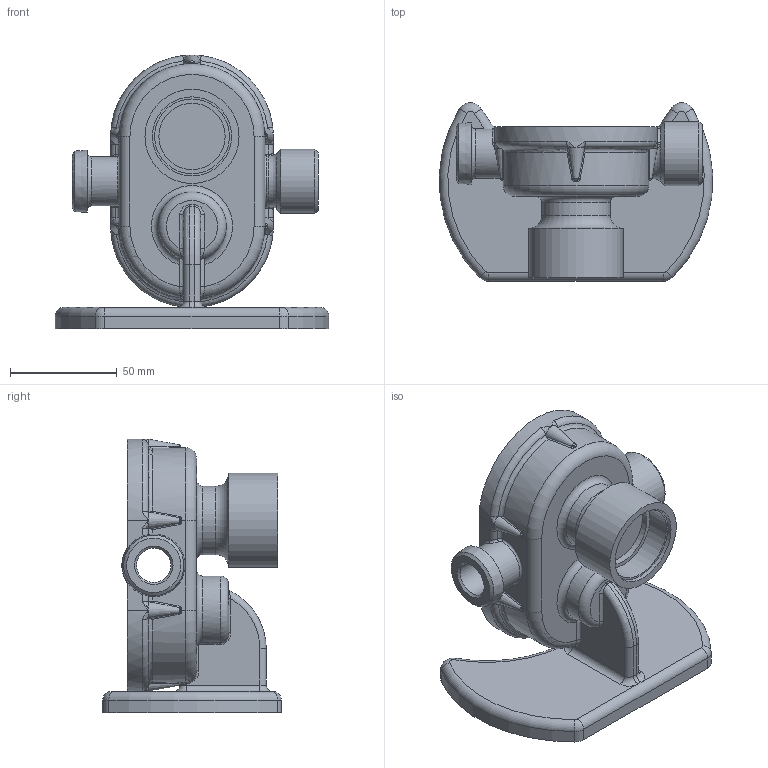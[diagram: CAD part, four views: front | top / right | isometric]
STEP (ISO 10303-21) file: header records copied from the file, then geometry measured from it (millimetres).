
FILE_DESCRIPTION(('STEP AP214'), '1');
FILE_NAME('扻豵鵨 侲勷黟', '2026-03-20T08:38:45', ('student'), (''), 'C3D Converter', 'C3D Toolkit', '');
FILE_SCHEMA(('AUTOMOTIVE_DESIGN { 1 0 10303 214 3 1 1}'));
Length unit declared in the file: millimetre
Bounding box: 127.85 x 83.5 x 128 mm (x, y, z)
Volume: 262319.1 mm3; surface area: 66444.6 mm2
Topology: 1 solids, 1 shells, 230 faces, 569 edges, 325 vertices
Faces by surface type: bspline 80, cylinder 57, torus 44, plane 33, cone 16
Full cylindrical faces by diameter (mm): 16 x2, 18 x2, 21.42 x1, 22 x1, 23 x1, 30 x1, 31 x1, 32 x1, 35 x1, 37 x1, 44 x1
Entity records: 15093 total; most frequent: CARTESIAN_POINT 10517, ORIENTED_EDGE 1046, DIRECTION 779, EDGE_CURVE 523, AXIS2_PLACEMENT_3D 343, VERTEX_POINT 325, EDGE_LOOP 264, ADVANCED_FACE 230
